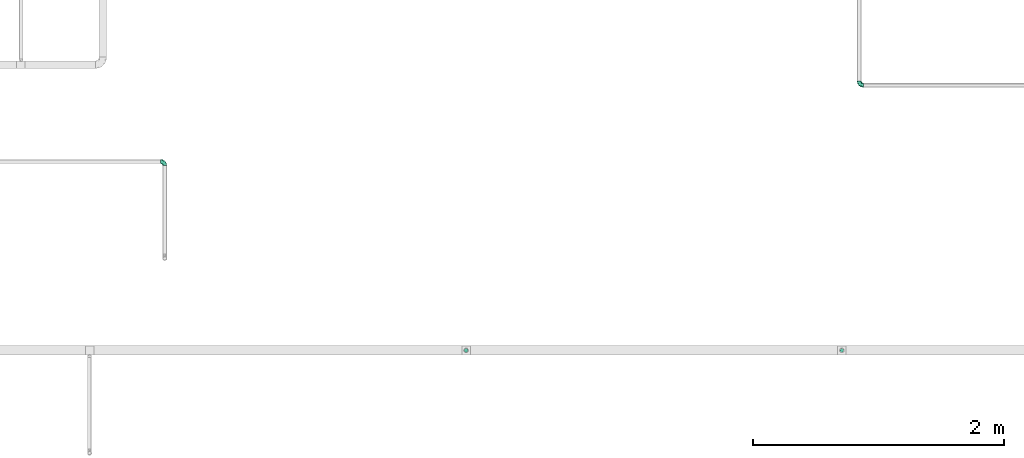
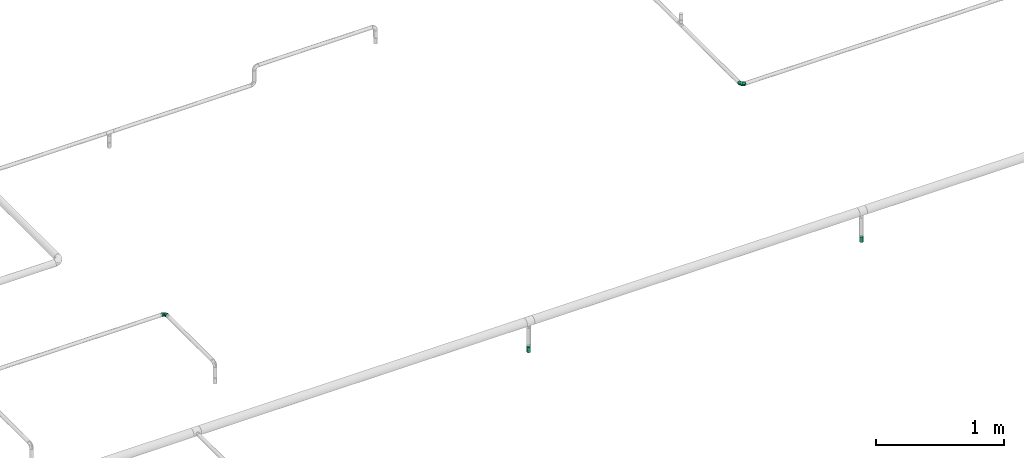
# One storey, part 22 of 45: 3 flow fittings, 2 flow terminals.
"""IFC2X3 building model written with IfcOpenShell, lengths in millimetres."""

from ifc_helpers import new_model, entity, si_unit, converted_unit, derived_unit, direction, frame, origin_with_axes, place, context, subcontext, project, spatial, open_shell, surface_model, source, transform, mapped, type_object, element, save


model = new_model("IFC2X3")

# Units and contexts
model_context = context("Model", 3, precision=0.01, world=frame((0.0, 4.29681676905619e-09, 0.0)), true_north=direction((4.01073788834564e-13, 1.0)))
plan_context = context("Plan", 3, precision=0.01, world=frame((0.0, 4.29681676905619e-09, 0.0)), true_north=direction((4.01073788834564e-13, 1.0)))
body_context = subcontext(model_context, "Body", "Model", "MODEL_VIEW")
ifc_project = project(units=[converted_unit("PLANEANGLEUNIT", "DEGREE", entity("IfcPositiveLengthMeasure", 0.0174532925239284), si_unit("PLANEANGLEUNIT", "RADIAN"), dimensions=[0, 0, 0, 0, 0, 0, 0]), si_unit("AREAUNIT", "SQUARE_METRE"), si_unit("LENGTHUNIT", "METRE", prefix="MILLI"), si_unit("MASSUNIT", "GRAM", prefix="KILO"), si_unit("POWERUNIT", "WATT"), si_unit("PRESSUREUNIT", "PASCAL", prefix="KILO"), si_unit("FORCEUNIT", "NEWTON", prefix="KILO"), si_unit("ELECTRICVOLTAGEUNIT", "VOLT"), si_unit("ELECTRICCURRENTUNIT", "AMPERE"), si_unit("THERMODYNAMICTEMPERATUREUNIT", "DEGREE_CELSIUS"), si_unit("TIMEUNIT", "SECOND"), si_unit("VOLUMEUNIT", "CUBIC_METRE"), derived_unit("LINEARVELOCITYUNIT", [(si_unit("LENGTHUNIT", "METRE"), 1), (si_unit("TIMEUNIT", "SECOND"), -1)]), derived_unit("VOLUMETRICFLOWRATEUNIT", [(si_unit("VOLUMEUNIT", "CUBIC_METRE"), 1), (si_unit("TIMEUNIT", "SECOND"), -1)]), derived_unit("THERMALTRANSMITTANCEUNIT", [(si_unit("POWERUNIT", "WATT"), 1), (si_unit("THERMODYNAMICTEMPERATUREUNIT", "KELVIN"), -1), (si_unit("AREAUNIT", "SQUARE_METRE"), -1)]), derived_unit("SOUNDPRESSUREUNIT", [(si_unit("PRESSUREUNIT", "PASCAL"), 1)])], contexts=[model_context, plan_context])

# Site, building, storey
site_placement = place(None, frame((0.0, -4.29681676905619e-09, 0.0), z_axis=(0.0, 0.0, 1.0), x_axis=(1.0, 0.0, 0.0)))
site = spatial("IfcSite", under=ifc_project, at=site_placement, CompositionType="ELEMENT")
building_placement = place(site_placement, frame((0.0, 4.29681676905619e-09, 0.0), z_axis=(0.0, 0.0, 1.0), x_axis=(1.0, 0.0, 0.0)))
building = spatial("IfcBuilding", under=site, at=building_placement, Name="mc-building", CompositionType="ELEMENT")
storey_placement = place(building_placement, frame((0.0, 0.0, 210200.0), z_axis=(0.0, 0.0, 1.0), x_axis=(1.0, 0.0, 0.0)))
storey = spatial("IfcBuildingStorey", under=building, at=storey_placement, Name="Nivå F - 0,7 m", CompositionType="ELEMENT", Elevation=210200.0)

# Flow fittings
pipe_fitting_type_1 = type_object("IfcPipeFittingType", Name="magi_pipe_fe_elbow_short_001", PredefinedType="BEND")
shared_shape_1 = source(origin_with_axes(), body_context, "Body", "SurfaceModel", [
    surface_model("IfcShellBasedSurfaceModel", [(-33.8, -11.9501, -11.9501), (-33.8, -14.63583, -8.45), (-33.8, -8.45, -14.63583), (-33.8, 0.0, -16.9), (-33.8, -4.37404, -16.32415), (-33.8, -16.32415, -4.37404), (-33.8, -16.9, 0.0), (-33.8, 11.9501, 11.9501), (-33.8, 14.63583, 8.45), (-33.8, 8.45, 14.63583), (-33.8, -11.9501, 11.9501), (-33.8, -8.45, 14.63583), (-33.8, -14.63583, 8.45), (-33.8, -16.32415, 4.37404), (-33.8, -4.37404, 16.32415), (-33.8, 0.0, 16.9), (-33.8, 16.9, 0.0), (-33.8, 16.32415, -4.37404), (-33.8, 16.32415, 4.37404), (-33.8, 4.37404, -16.32415), (-33.8, 8.45, -14.63583), (-33.8, 14.63583, -8.45), (-33.8, 11.9501, -11.9501), (-33.8, 4.37404, 16.32415), (-4.37404, 33.8, -16.32415), (16.9, 33.8, 0.0), (0.0, 33.8, -16.9), (-16.32415, 33.8, -4.37404), (-8.45, 33.8, -14.63583), (-14.63583, 33.8, -8.45), (-11.9501, 33.8, -11.9501), (16.32415, 33.8, 4.37404), (8.45, 33.8, -14.63583), (14.63583, 33.8, -8.45), (11.9501, 33.8, -11.9501), (4.37404, 33.8, -16.32415), (16.32415, 33.8, -4.37404), (-16.32415, 33.8, 4.37404), (-4.37404, 33.8, 16.32415), (-14.63583, 33.8, 8.45), (-8.45, 33.8, 14.63583), (-11.9501, 33.8, 11.9501), (14.63583, 33.8, 8.45), (8.45, 33.8, 14.63583), (11.9501, 33.8, 11.9501), (0.0, 33.8, 16.9), (4.37404, 33.8, 16.32415), (-16.9, 33.8, 0.0), (-24.79389, -13.12945, 9.48721), (-22.19287, -9.75018, 12.59315), (-24.09897, -14.97035, 0.0), (-14.93934, -10.76256, 8.5297), (-22.46095, -14.75051, 5.27077), (14.75051, 22.46094, 5.27077), (11.9251, 13.23888, 4.33236), (13.04069, 14.39795, 0.0), (7.71387, 13.68847, 11.55891), (9.75018, 22.19287, 12.59315), (4.10169, 13.0571, 14.04018), (-24.84007, -6.39063, 15.2048), (-25.81779, -2.23879, 16.61097), (-23.66549, 2.59054, 16.87119), (-26.50418, 14.06512, 11.08152), (-24.21253, 17.66365, 7.72657), (-29.58514, 15.86957, 7.00283), (-6.17382, -7.5455, 0.0), (-13.23888, -11.9251, 4.33236), (-14.39795, -13.04069, 0.0), (-17.81434, 18.87373, 11.97104), (-6.30846, 29.15138, 15.82987), (-2.31622, 25.28002, 16.85849), (-29.23923, 10.23435, 13.77053), (-1.45439, -2.85688, 7.61475), (-0.28326, 0.34872, 10.09509), (-5.74484, -4.04709, 10.4122), (-4.41137, 11.31918, 16.59407), (-8.39727, 3.10034, 15.7812), (-1.72649, 9.1306, 15.53089), (-17.39909, 24.75344, 7.64977), (-26.19233, 20.0512, 0.0), (-28.14518, 17.29657, 4.25857), (-26.05147, 6.6281, 15.96447), (-5.87354, 16.61944, 16.86968), (-12.51807, 12.51807, 16.48937), (-10.06312, 7.38516, 16.81295), (-3.01882, 3.01882, 13.81718), (-13.0571, -4.10169, 14.04018), (-16.82553, -0.15166, 16.38038), (10.76256, 14.93934, 8.5297), (13.12945, 24.79389, 9.48721), (6.39063, 24.84007, 15.2048), (2.23879, 25.81779, 16.61097), (-13.68847, -7.71387, 11.55891), (14.97035, 24.09897, 0.0), (-7.30894, 22.89991, 16.09489), (-10.67958, 26.17414, 14.008), (-12.78295, 18.26924, 15.06066), (-13.88562, 22.45231, 12.93244), (-18.04944, 15.16501, 14.04434), (-23.11658, 20.08178, 4.02986), (-21.84989, 21.84989, 0.0), (-18.55817, 25.48277, 3.93065), (-13.95142, 26.94732, 11.03289), (-18.57098, 7.23906, 16.59756), (-16.58335, 4.14122, 16.89279), (-17.96666, 11.46709, 15.63151), (-9.84453, 17.54304, 16.18938), (0.15166, 16.82553, 16.38038), (-23.27207, 11.47201, 14.23154), (3.84842, 5.86994, 10.70473), (-8.0212, -7.54413, 7.93275), (1.00345, -2.19508, 4.57414), (5.13203, 3.01004, 5.90201), (5.24161, 1.7543, 2.53265), (8.70457, 7.04947, 3.99182), (-20.0512, 26.19233, 0.0), (8.4852, 8.76699, 7.09296), (-4.55488, -6.72064, 4.90681), (2.05031, -2.05031, 0.0), (7.5455, 6.17382, 0.0), (-26.75399, 2.1369, -16.845), (-14.61995, 24.73803, -11.27736), (-28.45274, -13.45335, -9.81895), (-26.00469, 6.63555, -15.96645), (-23.06726, 20.04573, -4.26202), (-13.80647, -4.26506, -14.17873), (-14.67501, -0.21081, -16.07388), (-6.7902, -0.2828, -13.8478), (-24.53586, 11.08096, -14.13417), (-26.72048, 14.00837, -11.05776), (10.0967, 24.44989, -12.75976), (5.83237, 21.40218, -15.03047), (6.66249, 28.54238, -15.38093), (-20.38182, 15.48705, -12.74596), (12.53268, 21.23441, -9.15363), (12.54494, 15.67504, -5.54878), (9.7522, 12.89279, -8.66343), (-15.65186, 19.64213, -13.01327), (-12.03528, 20.66498, -14.67665), (-15.61907, 15.61906, -14.83879), (-25.56551, -15.26206, 0.0), (-24.65452, -15.12934, -5.50955), (13.45335, 28.45274, -9.81895), (15.12934, 24.65452, -5.50955), (-7.35442, -8.31014, -5.65563), (-15.67504, -12.54494, -5.54878), (-24.44989, -10.0967, -12.75976), (0.16522, 0.41303, -9.71728), (-5.70658, -5.33066, -8.89288), (-5.13869, -2.37198, -11.53565), (-21.23441, -12.53268, -9.15363), (0.71146, 7.93863, -14.09382), (0.21081, 14.67501, -16.07388), (3.49291, 14.42772, -14.76381), (-24.89911, -2.13088, -16.591), (-28.54238, -6.66249, -15.38093), (-18.44386, -7.71663, -13.26957), (2.13088, 24.89911, -16.591), (-28.64342, 17.44413, -2.89318), (1.70017, -1.28722, -5.09504), (-16.57067, 26.81947, -7.36596), (-17.69055, 27.4263, -3.76405), (-12.89279, -9.7522, -8.66343), (-5.96611, 5.96611, -15.95814), (-20.53709, 20.09345, -8.28985), (-2.1369, 26.75399, -16.845), (-6.89872, 24.58781, -16.02578), (-10.60739, 26.53157, -13.98044), (-21.40218, -5.83237, -15.03047), (2.93192, 5.89627, -11.55917), (6.89393, 12.61842, -11.82233), (5.58056, 5.95325, -8.79455), (-3.99512, 18.61798, -16.89635), (8.31014, 7.35442, -5.65563), (-9.1383, 9.86148, -16.89041), (-9.99983, 16.02119, -16.39699), (-16.68576, 9.78031, -16.34199), (-27.01915, 16.61158, -7.12979), (15.26206, 25.56551, 0.0), (-18.61798, 3.99512, -16.89635), (-19.37495, 27.82495, 0.0), (-12.61842, -6.89393, -11.82233), (-18.84705, 19.14018, -10.96545)], [open_shell([[[0, 1, 2]], [[3, 4, 2]], [[5, 6, 1]], [[7, 8, 9]], [[10, 11, 12]], [[13, 12, 11]], [[14, 15, 11]], [[16, 17, 18]], [[3, 6, 19]], [[20, 19, 17]], [[20, 17, 21]], [[22, 20, 21]], [[17, 19, 6]], [[2, 1, 6]], [[2, 6, 3]], [[6, 18, 17]], [[23, 18, 6]], [[8, 18, 23]], [[8, 23, 9]], [[13, 23, 6]], [[23, 13, 11]], [[11, 15, 23]], [[24, 25, 26]], [[27, 24, 28]], [[29, 27, 28]], [[29, 28, 30]], [[31, 25, 24]], [[32, 33, 34]], [[32, 35, 26]], [[33, 25, 36]], [[33, 32, 26]], [[25, 33, 26]], [[24, 27, 37]], [[31, 24, 37]], [[38, 37, 39]], [[40, 38, 39]], [[40, 39, 41]], [[31, 37, 38]], [[42, 43, 44]], [[43, 42, 31]], [[43, 45, 46]], [[43, 31, 38]], [[38, 45, 43]], [[37, 27, 47]], [[10, 48, 49]], [[13, 6, 50]], [[51, 48, 52]], [[53, 54, 55]], [[48, 10, 12]], [[13, 52, 12]], [[56, 57, 58]], [[49, 11, 10]], [[49, 59, 11]], [[15, 60, 61]], [[62, 63, 64]], [[65, 66, 67]], [[57, 44, 43]], [[62, 68, 63]], [[38, 69, 70]], [[9, 71, 7]], [[14, 60, 15]], [[72, 73, 74]], [[75, 76, 77]], [[7, 62, 8]], [[39, 37, 78]], [[79, 16, 80]], [[64, 18, 8]], [[15, 61, 23]], [[23, 81, 9]], [[82, 83, 84]], [[74, 85, 86]], [[59, 86, 87]], [[88, 89, 57]], [[90, 43, 46]], [[42, 53, 31]], [[46, 45, 91]], [[54, 53, 88]], [[42, 89, 53]], [[92, 86, 49]], [[89, 42, 44]], [[11, 59, 14]], [[53, 55, 93]], [[93, 31, 53]], [[66, 52, 67]], [[94, 82, 70]], [[95, 96, 94]], [[97, 98, 96]], [[79, 99, 100]], [[40, 41, 95]], [[101, 100, 99]], [[68, 78, 63]], [[38, 40, 69]], [[16, 18, 80]], [[95, 94, 69]], [[78, 101, 99]], [[41, 102, 95]], [[70, 45, 38]], [[97, 95, 102]], [[13, 50, 52]], [[90, 57, 43]], [[57, 90, 58]], [[81, 23, 61]], [[103, 104, 84]], [[105, 81, 103]], [[41, 39, 102]], [[106, 96, 83]], [[94, 106, 82]], [[91, 70, 107]], [[71, 62, 7]], [[62, 108, 98]], [[86, 59, 49]], [[67, 52, 50]], [[60, 59, 87]], [[92, 49, 51]], [[86, 85, 76]], [[91, 90, 46]], [[25, 31, 93]], [[107, 77, 58]], [[107, 58, 90]], [[58, 85, 109]], [[110, 74, 92]], [[72, 74, 110]], [[66, 51, 52]], [[72, 111, 112]], [[113, 114, 112]], [[56, 88, 57]], [[52, 48, 12]], [[49, 48, 51]], [[57, 89, 44]], [[53, 89, 88]], [[103, 81, 61]], [[71, 81, 108]], [[18, 64, 80]], [[63, 78, 99]], [[47, 115, 101]], [[101, 115, 100]], [[39, 78, 102]], [[68, 102, 78]], [[97, 96, 95]], [[105, 98, 108]], [[103, 84, 83]], [[107, 70, 82]], [[76, 84, 87]], [[82, 84, 75]], [[70, 91, 45]], [[90, 91, 107]], [[59, 60, 14]], [[61, 60, 87]], [[73, 85, 74]], [[109, 112, 116]], [[103, 61, 104]], [[105, 103, 83]], [[96, 105, 83]], [[81, 105, 108]], [[96, 98, 105]], [[62, 98, 68]], [[61, 87, 104]], [[87, 84, 104]], [[86, 76, 87]], [[77, 76, 85]], [[58, 77, 85]], [[75, 77, 107]], [[82, 75, 107]], [[76, 75, 84]], [[81, 71, 9]], [[62, 71, 108]], [[95, 69, 40]], [[70, 69, 94]], [[62, 64, 8]], [[80, 63, 99]], [[63, 80, 64]], [[80, 99, 79]], [[66, 65, 117]], [[110, 66, 117]], [[112, 114, 116]], [[118, 117, 65]], [[110, 92, 51]], [[112, 111, 113]], [[119, 55, 54]], [[74, 86, 92]], [[58, 109, 56]], [[116, 56, 109]], [[66, 110, 51]], [[72, 110, 117]], [[111, 72, 117]], [[73, 112, 109]], [[117, 118, 111]], [[113, 111, 118]], [[118, 119, 113]], [[114, 119, 54]], [[119, 114, 113]], [[116, 54, 88]], [[54, 116, 114]], [[116, 88, 56]], [[112, 73, 72]], [[85, 73, 109]], [[78, 37, 101]], [[47, 101, 37]], [[102, 68, 97]], [[97, 68, 98]], [[82, 106, 83]], [[94, 96, 106]], [[19, 120, 3]], [[29, 30, 121]], [[0, 122, 1]], [[20, 123, 19]], [[100, 124, 79]], [[125, 126, 127]], [[128, 22, 129]], [[130, 131, 132]], [[128, 129, 133]], [[134, 135, 136]], [[137, 138, 139]], [[128, 20, 22]], [[67, 140, 141]], [[134, 142, 143]], [[141, 5, 1]], [[144, 65, 145]], [[146, 0, 2]], [[147, 148, 149]], [[145, 141, 150]], [[151, 152, 153]], [[154, 4, 3]], [[2, 155, 146]], [[150, 146, 156]], [[155, 2, 4]], [[143, 135, 134]], [[35, 157, 26]], [[16, 79, 158]], [[148, 159, 144]], [[160, 161, 27]], [[145, 162, 144]], [[163, 152, 151]], [[27, 29, 160]], [[121, 164, 160]], [[32, 34, 130]], [[26, 165, 24]], [[24, 165, 166]], [[142, 34, 33]], [[30, 28, 167]], [[124, 161, 164]], [[157, 35, 132]], [[155, 154, 168]], [[123, 20, 128]], [[169, 170, 171]], [[172, 157, 152]], [[24, 166, 28]], [[132, 35, 32]], [[142, 130, 34]], [[168, 154, 126]], [[136, 135, 173]], [[133, 137, 139]], [[22, 21, 129]], [[170, 131, 130]], [[33, 36, 143]], [[172, 174, 175]], [[176, 123, 128]], [[158, 177, 17]], [[135, 55, 119]], [[167, 28, 166]], [[175, 166, 172]], [[137, 167, 138]], [[122, 141, 1]], [[140, 6, 5]], [[36, 25, 178]], [[170, 130, 134]], [[152, 157, 131]], [[165, 157, 172]], [[153, 170, 151]], [[152, 163, 174]], [[168, 125, 156]], [[122, 146, 150]], [[120, 154, 3]], [[179, 174, 126]], [[179, 126, 154]], [[126, 163, 127]], [[162, 145, 150]], [[140, 5, 141]], [[36, 178, 143]], [[55, 143, 178]], [[177, 129, 21]], [[128, 133, 139]], [[176, 128, 139]], [[120, 123, 179]], [[121, 160, 29]], [[161, 100, 180]], [[166, 175, 138]], [[121, 30, 167]], [[161, 47, 27]], [[79, 124, 158]], [[124, 164, 177]], [[161, 124, 100]], [[136, 171, 170]], [[127, 163, 151]], [[147, 171, 159]], [[148, 144, 162]], [[127, 151, 169]], [[127, 181, 125]], [[129, 177, 164]], [[21, 17, 177]], [[159, 65, 144]], [[67, 141, 145]], [[143, 55, 135]], [[135, 119, 173]], [[123, 120, 19]], [[154, 120, 179]], [[157, 165, 26]], [[166, 165, 172]], [[172, 152, 174]], [[176, 139, 175]], [[126, 174, 163]], [[176, 174, 179]], [[174, 176, 175]], [[123, 176, 179]], [[150, 181, 162]], [[127, 149, 181]], [[181, 148, 162]], [[159, 148, 147]], [[171, 136, 173]], [[170, 134, 136]], [[159, 171, 173]], [[171, 147, 169]], [[169, 147, 149]], [[151, 170, 169]], [[164, 182, 129]], [[182, 121, 137]], [[181, 149, 148]], [[169, 149, 127]], [[182, 137, 133]], [[167, 137, 121]], [[166, 138, 167]], [[175, 139, 138]], [[129, 182, 133]], [[121, 182, 164]], [[161, 160, 164]], [[47, 161, 180]], [[177, 158, 124]], [[16, 158, 17]], [[130, 132, 32]], [[157, 132, 131]], [[143, 142, 33]], [[130, 142, 134]], [[154, 155, 4]], [[146, 155, 168]], [[146, 122, 0]], [[141, 122, 150]], [[152, 131, 153]], [[159, 119, 118]], [[67, 145, 65]], [[170, 153, 131]], [[119, 159, 173]], [[159, 118, 65]], [[156, 125, 181]], [[126, 125, 168]], [[150, 156, 181]], [[168, 156, 146]]])]),
])
for number, where, z_axis, x_axis, name in (
    (1, (330113.5, 461628.40208, 2938.0), (0.0, 0.0, 1.0), (0.0, 1.0, 0.0), "magi_pipe_fe_elbow_short_001"),
    (2, (335657.5, 462235.84736, 2810.47111000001), (0.0, 0.0, 1.0), (0.0, -1.0, 0.0), "magi_pipe_fe_elbow_short_001"),
):
    element("IfcFlowFitting", number, at=place(storey_placement, frame(where, z_axis=z_axis, x_axis=x_axis)), inside=storey, type_object=pipe_fitting_type_1, Name=name, context=body_context, shape_type="MappedRepresentation", body=[
        mapped(shared_shape_1, transform((0.0, 0.0, 0.0), scale=1.0)),
    ])
pipe_fitting_type_2 = type_object("IfcPipeFittingType", Name="magi_pipe_fe_reducer_centric_short_001", PredefinedType="TRANSITION")
shared_shape_2 = source(origin_with_axes(), body_context, "Body", "SurfaceModel", [
    surface_model("IfcShellBasedSurfaceModel", [(9.0, 16.32415, 4.37404), (9.0, 16.32415, -4.37404), (9.0, 16.9, 0.0), (7.0, 11.9501, -11.9501), (7.0, 16.9, 0.0), (7.0, 11.9501, 11.9501), (7.0, 0.0, 16.9), (7.0, -11.9501, 11.9501), (7.0, -16.9, 0.0), (0.0, 0.0, 13.4), (0.0, 9.47523, 9.47523), (0.0, 13.4, 0.0), (9.0, -11.9501, -11.9501), (9.0, -8.45, -14.63583), (9.0, -4.37404, -16.32415), (9.0, 0.0, -16.9), (9.0, 8.45, -14.63583), (9.0, -16.32415, 4.37404), (9.0, -14.63583, -8.45), (9.0, -16.32415, -4.37404), (9.0, 4.37404, -16.32415), (9.0, 14.63583, -8.45), (9.0, 11.9501, -11.9501), (9.0, -16.9, 0.0), (9.0, -11.9501, 11.9501), (9.0, -14.63583, 8.45), (9.0, -4.37404, 16.32415), (9.0, 0.0, 16.9), (9.0, -8.45, 14.63583), (9.0, 14.63583, 8.45), (9.0, 11.9501, 11.9501), (9.0, 8.45, 14.63583), (9.0, 4.37404, 16.32415), (7.0, 14.63583, 8.45), (7.0, -4.37404, 16.32415), (7.0, -8.45, 14.63583), (7.0, -16.32415, 4.37404), (7.0, -14.63583, 8.45), (7.0, 8.45, 14.63583), (7.0, 4.37404, 16.32415), (7.0, 16.32415, 4.37404), (7.0, 16.32415, -4.37404), (7.0, 8.45, -14.63583), (7.0, -11.9501, -11.9501), (7.0, -16.32415, -4.37404), (7.0, -14.63583, -8.45), (7.0, -4.37404, -16.32415), (7.0, -8.45, -14.63583), (7.0, 14.63583, -8.45), (7.0, 4.37404, -16.32415), (7.0, 0.0, -16.9), (-2.0, -3.46818, 12.94341), (-2.0, 0.0, 13.4), (-2.0, 9.47523, 9.47523), (-2.0, -6.7, 11.60474), (-2.0, -12.94341, 3.46818), (-2.0, -11.60474, 6.7), (-2.0, -9.47523, 9.47523), (-2.0, 6.7, 11.60474), (-2.0, 3.46818, 12.94341), (-2.0, 11.60474, 6.7), (-2.0, 12.94341, 3.46818), (-2.0, 13.4, 0.0), (-2.0, 6.7, -11.60474), (-2.0, -13.4, 0.0), (-2.0, -12.94341, -3.46818), (-2.0, -6.7, -11.60474), (-2.0, -11.60474, -6.7), (-2.0, -9.47523, -9.47523), (-2.0, -3.46818, -12.94341), (-2.0, 11.60474, -6.7), (-2.0, 9.47523, -9.47523), (-2.0, 12.94341, -3.46818), (-2.0, 3.46818, -12.94341), (-2.0, 0.0, -13.4), (0.0, -6.7, -11.60474), (0.0, -3.46818, -12.94341), (0.0, -13.4, 0.0), (0.0, -9.47523, -9.47523), (0.0, -11.60474, -6.7), (0.0, -12.94341, -3.46818), (0.0, 6.7, -11.60474), (0.0, 0.0, -13.4), (0.0, 3.46818, -12.94341), (0.0, 11.60474, -6.7), (0.0, 12.94341, -3.46818), (0.0, 9.47523, -9.47523), (0.0, 12.94341, 3.46818), (0.0, -12.94341, 3.46818), (0.0, -9.47523, 9.47523), (0.0, -11.60474, 6.7), (0.0, -3.46818, 12.94341), (0.0, -6.7, 11.60474), (0.0, 11.60474, 6.7), (0.0, 6.7, 11.60474), (0.0, 3.46818, 12.94341), (7.0, 13.23119, -8.85729), (0.0, 11.43761, -4.73762), (7.0, 14.51228, -5.76448), (0.0, 10.45642, -7.10642), (7.0, 15.70614, -2.88224), (0.0, 12.41881, -2.36881), (0.0, 2.36881, -12.41881), (0.0, 4.73762, -11.43761), (0.0, 7.10642, -10.45642), (7.0, 5.97505, -14.42505), (7.0, 2.98753, -15.66253), (7.0, 8.96258, -13.18758), (0.0, -2.36881, -12.41881), (7.0, -2.98753, -15.66253), (0.0, -12.45339, -2.28533), (0.0, -10.45642, -7.10642), (7.0, -13.18758, -8.96258), (0.0, -11.43761, -4.73762), (7.0, -14.42505, -5.97505), (7.0, -8.96258, -13.18758), (0.0, -7.10642, -10.45642), (7.0, -15.66253, -2.98753), (7.0, -5.97505, -14.42505), (0.0, -4.73762, -11.43761), (7.0, -13.23119, 8.85729), (0.0, -11.43761, 4.73762), (7.0, -14.51228, 5.76448), (0.0, -10.45642, 7.10642), (7.0, -15.70614, 2.88224), (0.0, -12.41881, 2.36881), (0.0, -2.36881, 12.41881), (0.0, -4.73762, 11.43761), (0.0, -7.10642, 10.45642), (7.0, -5.97505, 14.42505), (7.0, -2.98753, 15.66253), (7.0, -8.96258, 13.18758), (0.0, 2.36881, 12.41881), (7.0, 2.98753, 15.66253), (0.0, 12.45339, 2.28533), (0.0, 10.45642, 7.10642), (7.0, 13.18758, 8.96258), (0.0, 11.43761, 4.73762), (7.0, 14.42505, 5.97505), (7.0, 8.96258, 13.18758), (0.0, 7.10642, 10.45642), (7.0, 15.66253, 2.98753), (7.0, 5.97505, 14.42505), (0.0, 4.73762, 11.43761)], [open_shell([[[0, 1, 2]], [[3, 4, 5]], [[6, 7, 8]], [[9, 10, 11]], [[12, 13, 14]], [[12, 14, 15]], [[16, 17, 12]], [[18, 12, 19]], [[12, 17, 19]], [[20, 16, 15]], [[16, 12, 15]], [[21, 1, 22]], [[16, 22, 1]], [[1, 0, 16]], [[17, 23, 19]], [[24, 25, 17]], [[26, 24, 17]], [[17, 27, 26]], [[28, 24, 26]], [[29, 27, 17]], [[0, 29, 17]], [[30, 31, 29]], [[31, 27, 29]], [[32, 27, 31]], [[17, 16, 0]], [[6, 33, 34]], [[35, 34, 36]], [[36, 37, 7]], [[35, 36, 7]], [[36, 34, 33]], [[5, 33, 38]], [[39, 38, 33]], [[39, 33, 6]], [[33, 40, 36]], [[4, 41, 40]], [[42, 36, 40]], [[43, 44, 36]], [[45, 44, 43]], [[46, 47, 43]], [[43, 36, 42]], [[43, 42, 46]], [[48, 3, 41]], [[42, 41, 3]], [[49, 50, 42]], [[42, 40, 41]], [[42, 50, 46]], [[8, 36, 44]], [[4, 1, 41]], [[41, 21, 48]], [[42, 3, 16]], [[22, 3, 48]], [[49, 42, 20]], [[1, 21, 41]], [[4, 2, 1]], [[42, 16, 20]], [[16, 3, 22]], [[48, 21, 22]], [[49, 20, 15]], [[15, 50, 49]], [[50, 14, 46]], [[46, 13, 47]], [[45, 43, 18]], [[12, 43, 47]], [[44, 45, 19]], [[13, 12, 47]], [[46, 14, 13]], [[44, 19, 23]], [[19, 45, 18]], [[43, 12, 18]], [[44, 23, 8]], [[15, 14, 50]], [[8, 17, 36]], [[36, 25, 37]], [[35, 7, 28]], [[24, 7, 37]], [[34, 35, 26]], [[17, 25, 36]], [[8, 23, 17]], [[35, 28, 26]], [[28, 7, 24]], [[37, 25, 24]], [[34, 26, 27]], [[27, 6, 34]], [[6, 32, 39]], [[39, 31, 38]], [[33, 5, 29]], [[30, 5, 38]], [[40, 33, 0]], [[31, 30, 38]], [[39, 32, 31]], [[40, 0, 2]], [[0, 33, 29]], [[5, 30, 29]], [[40, 2, 4]], [[27, 32, 6]], [[51, 52, 53]], [[51, 53, 54]], [[55, 56, 57]], [[54, 55, 57]], [[55, 54, 53]], [[58, 53, 59]], [[53, 52, 59]], [[60, 61, 53]], [[53, 61, 55]], [[62, 63, 61]], [[64, 55, 61]], [[65, 64, 66]], [[67, 65, 68]], [[64, 69, 66]], [[68, 65, 66]], [[63, 69, 64]], [[70, 71, 72]], [[71, 62, 72]], [[63, 73, 69]], [[71, 63, 62]], [[69, 73, 74]], [[64, 61, 63]], [[75, 76, 77]], [[78, 75, 79]], [[75, 77, 80]], [[79, 75, 80]], [[81, 77, 76]], [[82, 83, 76]], [[83, 81, 76]], [[84, 85, 86]], [[86, 85, 87]], [[87, 81, 86]], [[88, 77, 81]], [[89, 90, 88]], [[9, 89, 88]], [[9, 91, 92]], [[89, 9, 92]], [[10, 9, 88]], [[93, 10, 87]], [[87, 85, 11]], [[94, 95, 10]], [[10, 81, 87]], [[9, 10, 95]], [[10, 88, 81]], [[62, 85, 72]], [[72, 84, 70]], [[63, 71, 81]], [[86, 71, 70]], [[73, 63, 83]], [[85, 84, 72]], [[62, 11, 85]], [[63, 81, 83]], [[81, 71, 86]], [[70, 84, 86]], [[73, 83, 82]], [[82, 74, 73]], [[74, 76, 69]], [[69, 75, 66]], [[67, 68, 79]], [[78, 68, 66]], [[65, 67, 80]], [[75, 78, 66]], [[69, 76, 75]], [[65, 80, 77]], [[80, 67, 79]], [[68, 78, 79]], [[65, 77, 64]], [[82, 76, 74]], [[64, 88, 55]], [[55, 90, 56]], [[54, 57, 92]], [[89, 57, 56]], [[51, 54, 91]], [[88, 90, 55]], [[64, 77, 88]], [[54, 92, 91]], [[92, 57, 89]], [[56, 90, 89]], [[51, 91, 9]], [[9, 52, 51]], [[52, 95, 59]], [[59, 94, 58]], [[60, 53, 93]], [[10, 53, 58]], [[61, 60, 87]], [[94, 10, 58]], [[59, 95, 94]], [[61, 87, 11]], [[87, 60, 93]], [[53, 10, 93]], [[61, 11, 62]], [[9, 95, 52]], [[5, 6, 3]], [[43, 50, 3]], [[3, 8, 43]], [[6, 8, 3]], [[11, 89, 9]], [[77, 89, 78]], [[11, 82, 78]], [[82, 11, 86]], [[89, 11, 78]], [[96, 97, 98]], [[99, 3, 86]], [[100, 98, 101]], [[50, 82, 102]], [[103, 104, 105]], [[106, 50, 102]], [[104, 86, 107]], [[108, 82, 109]], [[8, 77, 110]], [[4, 100, 11]], [[82, 50, 109]], [[111, 78, 112]], [[113, 111, 114]], [[115, 43, 116]], [[117, 8, 110]], [[97, 96, 99]], [[113, 114, 117]], [[103, 105, 106]], [[118, 115, 119]], [[118, 119, 108]], [[97, 101, 98]], [[100, 101, 11]], [[96, 3, 99]], [[107, 105, 104]], [[86, 3, 107]], [[102, 103, 106]], [[112, 114, 111]], [[78, 43, 112]], [[110, 113, 117]], [[116, 119, 115]], [[43, 78, 116]], [[109, 118, 108]], [[120, 121, 122]], [[123, 7, 89]], [[124, 122, 125]], [[6, 9, 126]], [[127, 128, 129]], [[130, 6, 126]], [[128, 89, 131]], [[132, 9, 133]], [[4, 11, 134]], [[8, 124, 77]], [[9, 6, 133]], [[135, 10, 136]], [[137, 135, 138]], [[139, 5, 140]], [[141, 4, 134]], [[121, 120, 123]], [[137, 138, 141]], [[127, 129, 130]], [[142, 139, 143]], [[142, 143, 132]], [[121, 125, 122]], [[124, 125, 77]], [[120, 7, 123]], [[131, 129, 128]], [[89, 7, 131]], [[126, 127, 130]], [[136, 138, 135]], [[10, 5, 136]], [[134, 137, 141]], [[140, 143, 139]], [[5, 10, 140]], [[133, 142, 132]]])]),
])
flow_fitting_placement = place(storey_placement, frame((332518.61043, 460120.00018, 2696.95199999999), z_axis=(1.0, 0.0, 0.0), x_axis=(0.0, 0.0, 1.0)))
element("IfcFlowFitting", 3, at=flow_fitting_placement, inside=storey, type_object=pipe_fitting_type_2, Name="magi_pipe_fe_reducer_centric_short_001", context=body_context, shape_type="MappedRepresentation", body=[
    mapped(shared_shape_2, transform((0.0, 0.0, 0.0), scale=1.0)),
])

# Flow terminals
fire_suppression_terminal_type = type_object("IfcFireSuppressionTerminalType", Name="SP-15-K80-68DGR-STD-HIMLING", PredefinedType="NOTDEFINED")
shared_shape_3 = source(origin_with_axes(), body_context, "Body", "SurfaceModel", [
    surface_model("IfcShellBasedSurfaceModel", [(4.1411, -15.45481, 53.0), (8.0, -13.85641, 53.0), (11.31371, -11.31371, 53.0), (-8.0, -13.85641, 53.0), (15.45481, -4.1411, 53.0), (16.0, 0.0, 53.0), (13.85641, -8.0, 53.0), (0.0, -16.0, 53.0), (-4.1411, -15.45481, 53.0), (-13.85641, -8.0, 53.0), (-11.31371, -11.31371, 53.0), (-15.45481, -4.1411, 53.0), (15.45481, 4.1411, 53.0), (13.85641, 8.0, 53.0), (11.31371, 11.31371, 53.0), (-4.1411, 15.45481, 53.0), (8.0, 13.85641, 53.0), (4.1411, 15.45481, 53.0), (0.0, 16.0, 53.0), (-13.85641, 8.0, 53.0), (-15.45481, 4.1411, 53.0), (-16.0, 0.0, 53.0), (-11.31371, 11.31371, 53.0), (-8.0, 13.85641, 53.0), (0.0, 16.0, 0.0), (4.1411, 15.45481, 0.0), (8.0, 13.85641, 0.0), (-4.1411, 15.45481, 0.0), (11.31371, 11.31371, 0.0), (13.85641, 8.0, 0.0), (15.45481, 4.1411, 0.0), (-15.45481, -4.1411, 0.0), (-11.31371, 11.31371, 0.0), (-8.0, 13.85641, 0.0), (-13.85641, 8.0, 0.0), (-15.45481, 4.1411, 0.0), (-16.0, 0.0, 0.0), (4.1411, -15.45481, 0.0), (16.0, 0.0, 0.0), (15.45481, -4.1411, 0.0), (13.85641, -8.0, 0.0), (11.31371, -11.31371, 0.0), (8.0, -13.85641, 0.0), (-8.0, -13.85641, 0.0), (-13.85641, -8.0, 0.0), (-11.31371, -11.31371, 0.0), (0.0, -16.0, 0.0), (-4.1411, -15.45481, 0.0)], [open_shell([[[0, 1, 2]], [[3, 0, 2]], [[4, 5, 2]], [[4, 2, 6]], [[3, 2, 5]], [[7, 3, 8]], [[7, 0, 3]], [[3, 9, 10]], [[9, 3, 11]], [[5, 11, 3]], [[5, 12, 11]], [[12, 13, 14]], [[15, 12, 14]], [[16, 17, 18]], [[14, 16, 15]], [[18, 15, 16]], [[11, 19, 20]], [[21, 11, 20]], [[22, 15, 23]], [[15, 22, 19]], [[19, 11, 15]], [[11, 12, 15]], [[24, 25, 26]], [[27, 24, 26]], [[28, 29, 30]], [[27, 26, 28]], [[27, 28, 31]], [[27, 32, 33]], [[32, 27, 34]], [[34, 31, 35]], [[31, 34, 27]], [[35, 31, 36]], [[28, 30, 31]], [[37, 38, 39]], [[37, 39, 40]], [[41, 42, 37]], [[41, 37, 40]], [[38, 37, 43]], [[44, 43, 45]], [[43, 44, 31]], [[43, 46, 47]], [[43, 31, 38]], [[37, 46, 43]], [[38, 31, 30]], [[11, 31, 44]], [[45, 9, 44]], [[3, 43, 47]], [[45, 43, 10]], [[8, 47, 46]], [[31, 21, 36]], [[31, 11, 21]], [[44, 9, 11]], [[45, 10, 9]], [[3, 10, 43]], [[47, 8, 3]], [[46, 7, 8]], [[0, 37, 42]], [[41, 1, 42]], [[6, 40, 39]], [[41, 40, 2]], [[4, 39, 38]], [[37, 0, 7]], [[42, 1, 0]], [[41, 2, 1]], [[40, 6, 2]], [[4, 6, 39]], [[38, 5, 4]], [[37, 7, 46]], [[12, 38, 30]], [[13, 30, 29]], [[16, 26, 25]], [[17, 25, 24]], [[30, 13, 12]], [[12, 5, 38]], [[28, 14, 13]], [[28, 26, 14]], [[14, 26, 16]], [[25, 17, 16]], [[28, 13, 29]], [[24, 18, 17]], [[15, 27, 33]], [[32, 23, 33]], [[19, 34, 35]], [[32, 34, 22]], [[20, 35, 36]], [[27, 15, 18]], [[33, 23, 15]], [[32, 22, 23]], [[34, 19, 22]], [[20, 19, 35]], [[36, 21, 20]], [[27, 18, 24]]])]),
])
for number, where, z_axis, x_axis in (
    (4, (335518.61043, 460120.00018, 2700.0), (0.0, 0.0, -1.0), (-1.0, 0.0, 0.0)),
    (5, (332518.61043, 460120.00018, 2700.0), (0.0, 0.0, -1.0), (-1.0, 0.0, 0.0)),
):
    element("IfcFlowTerminal", number, at=place(storey_placement, frame(where, z_axis=z_axis, x_axis=x_axis)), inside=storey, type_object=fire_suppression_terminal_type, Name="SP-15-K80-68DGR-STD-HIMLING", context=body_context, shape_type="MappedRepresentation", body=[
        mapped(shared_shape_3, transform((0.0, 0.0, 0.0), scale=1.0)),
    ])

save(model, "model.ifc")
